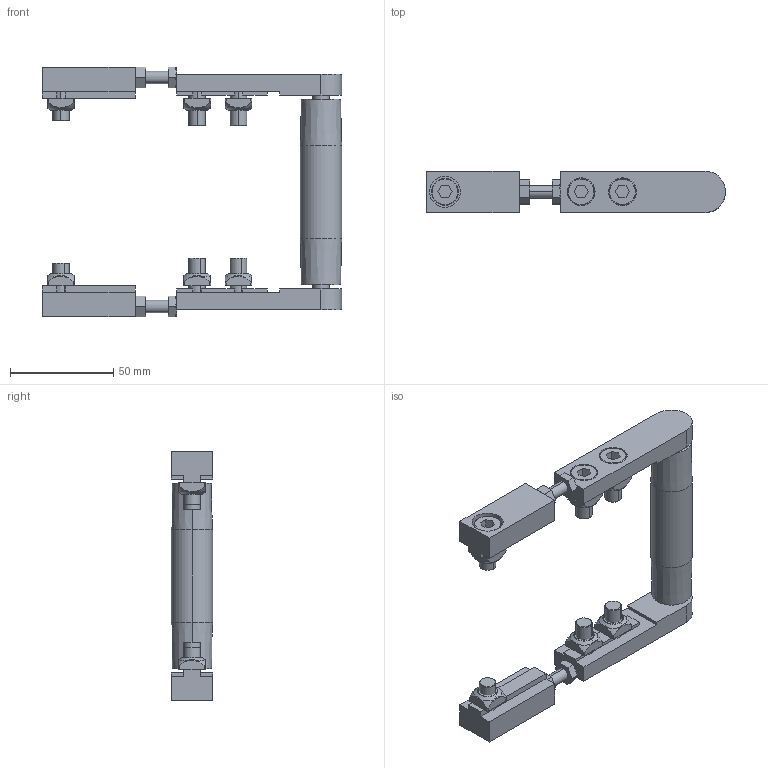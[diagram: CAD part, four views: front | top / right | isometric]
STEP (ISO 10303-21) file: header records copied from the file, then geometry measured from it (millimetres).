
FILE_DESCRIPTION (( 'STEP AP214' ), '1' );
FILE_NAME ('084.020.KI.070.STEP', '2020-02-25T16:14:46', ( '' ), ( '' ), 'SwSTEP 2.0', 'SolidWorks 2018', '' );
FILE_SCHEMA (( 'AUTOMOTIVE_DESIGN' ));
Length unit declared in the file: millimetre
Products named in the file (10): 084.302.000 DADI ALUSIC 13x13-1_084.302.004; Circlip DIN 471 - 8 x 0.8_Circlip DIN 471 - 8 x 0.8; 084.020.KI.070; 084.800.007; 084.800.002; 084.800.012; 084.800.046; 084.301.000 VITI ALUSIC_084.301.003; 084.802.008; 084.800.008
Assembly tree (27 placements, depth 2):
  084.020.KI.070
    084.802.008  x2
    084.301.000 VITI ALUSIC_084.301.003  x6
    084.302.000 DADI ALUSIC 13x13-1_084.302.004  x6
    084.800.046
    084.800.012  x4
    084.800.008  x2
    084.800.002  x2
    084.800.007  x2
    Circlip DIN 471 - 8 x 0.8_Circlip DIN 471 - 8 x 0.8  x2
Bounding box: 145 x 20 x 121 mm (x, y, z)
Volume: 79322.2 mm3; surface area: 52155.4 mm2
Topology: 31 solids, 31 shells, 664 faces, 1564 edges, 998 vertices
Faces by surface type: plane 262, cylinder 210, torus 112, cone 56, bspline 24
Entity records: 7452 total; most frequent: CARTESIAN_POINT 1561, DIRECTION 1208, ORIENTED_EDGE 1048, EDGE_CURVE 524, AXIS2_PLACEMENT_3D 474, VERTEX_POINT 337, LINE 260, VECTOR 260
